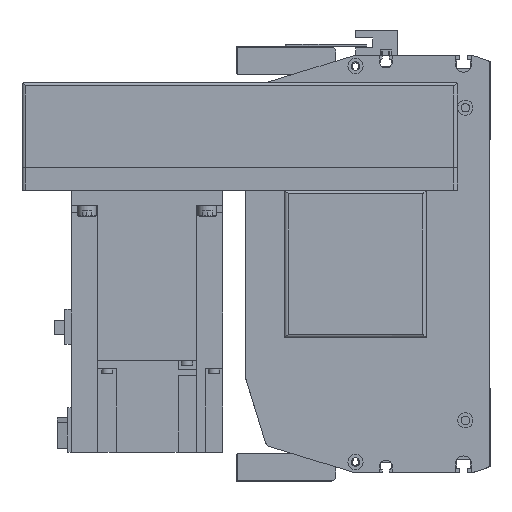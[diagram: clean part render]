
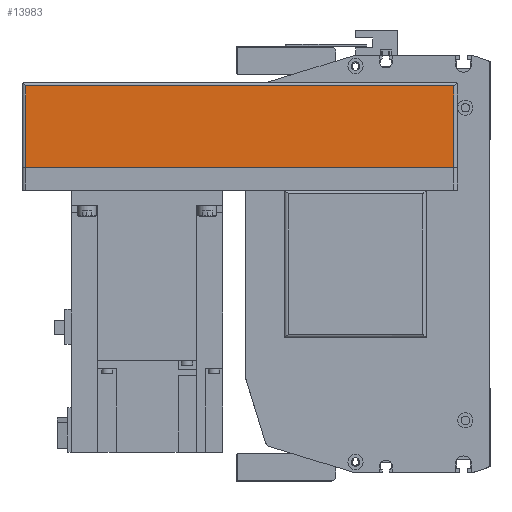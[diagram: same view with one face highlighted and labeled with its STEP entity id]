
A CAD part, left-side view. The second image highlights one B-rep face of the part: STEP entity #13983.
In plain terms, the highlighted planar face has unit normal (-1, 0, 0) as drawn and (0, 1, 0) by its records, which use the part's own axes.
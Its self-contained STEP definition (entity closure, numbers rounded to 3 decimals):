
#2388=ORIENTED_EDGE('',*,*,#5710,.F.);
#2389=ORIENTED_EDGE('',*,*,#5650,.T.);
#2390=ORIENTED_EDGE('',*,*,#5711,.F.);
#2391=ORIENTED_EDGE('',*,*,#5645,.F.);
#5645=EDGE_CURVE('',#7452,#7453,#8898,.T.);
#5650=EDGE_CURVE('',#7458,#7457,#8900,.T.);
#5710=EDGE_CURVE('',#7458,#7452,#8943,.T.);
#5711=EDGE_CURVE('',#7453,#7457,#8944,.T.);
#7452=VERTEX_POINT('',#21732);
#7453=VERTEX_POINT('',#21734);
#7457=VERTEX_POINT('',#21743);
#7458=VERTEX_POINT('',#21745);
#8898=LINE('',#21733,#10237);
#8900=LINE('',#21744,#10239);
#8943=LINE('',#21867,#10282);
#8944=LINE('',#21868,#10283);
#10237=VECTOR('',#17379,1000.);
#10239=VECTOR('',#17389,1000.);
#10282=VECTOR('',#17510,1000.);
#10283=VECTOR('',#17511,1000.);
#11430=EDGE_LOOP('',(#2388,#2389,#2390,#2391));
#12481=FACE_BOUND('',#11430,.T.);
#13370=PLANE('',#15012);
#13983=ADVANCED_FACE('',(#12481),#13370,.T.);
#15012=AXIS2_PLACEMENT_3D('',#21866,#17508,#17509);
#17379=DIRECTION('',(0.,0.,1.));
#17389=DIRECTION('',(0.,0.,1.));
#17508=DIRECTION('',(0.,1.,0.));
#17509=DIRECTION('',(0.,0.,1.));
#17510=DIRECTION('',(1.,0.,0.));
#17511=DIRECTION('',(-1.,0.,0.));
#21732=CARTESIAN_POINT('',(-2.,54.,-55.));
#21733=CARTESIAN_POINT('',(-2.,54.,-57.));
#21734=CARTESIAN_POINT('',(-2.,54.,-12.));
#21743=CARTESIAN_POINT('',(-228.,54.,-12.));
#21744=CARTESIAN_POINT('',(-228.,54.,-57.));
#21745=CARTESIAN_POINT('',(-228.,54.,-55.));
#21866=CARTESIAN_POINT('',(-2.,54.,-57.));
#21867=CARTESIAN_POINT('',(-230.,54.,-55.));
#21868=CARTESIAN_POINT('',(-2.,54.,-12.));
